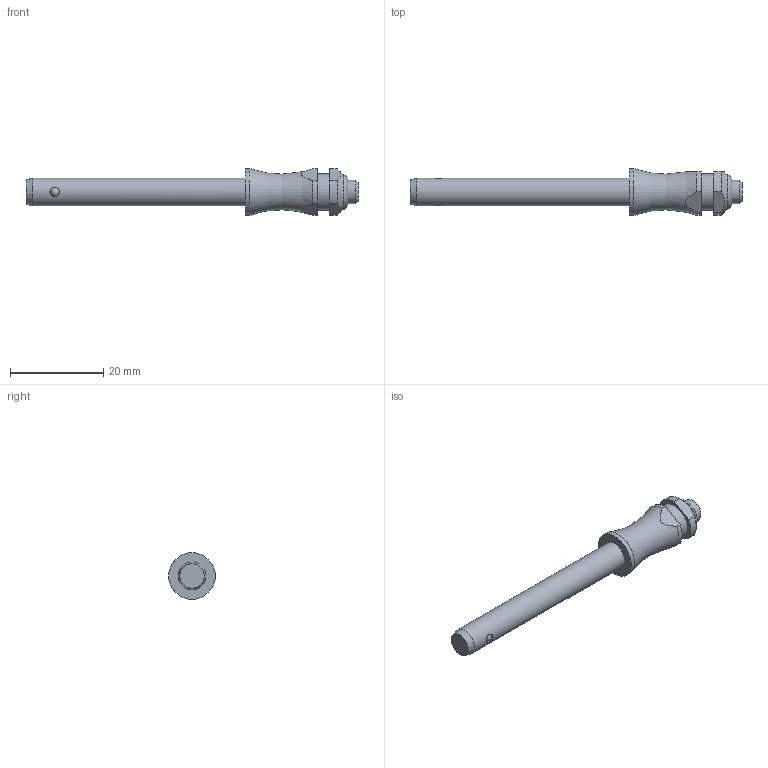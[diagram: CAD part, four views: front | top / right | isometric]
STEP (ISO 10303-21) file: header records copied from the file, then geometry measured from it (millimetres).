
FILE_DESCRIPTION( ( 'STEP AP203' ), '1' );
FILE_NAME( 'C:/Temp/Ganter_Step_05_03_2020/data/3_1/gn113_3/Stainless Steel-Ball lock pin GN 113.3-6-40 (activated).stp', '2020-03-12T08:18:18', ( 'License CC BY-ND 4.0' ), ( 'CADENAS' ), ' ', 'PARTsolutions', ' ' );
FILE_SCHEMA( ( 'CONFIG_CONTROL_DESIGN' ) );
Length unit declared in the file: millimetre
Products named in the file (1): _Stainless Steel-Ball lock pin GN 113.3-6-40 (activated)
Bounding box: 71.15 x 10 x 10 mm (x, y, z)
Volume: 2620.1 mm3; surface area: 1687.8 mm2
Topology: 1 solids, 1 shells, 31 faces, 73 edges, 46 vertices
Faces by surface type: plane 12, cylinder 12, cone 3, torus 2, sphere 2
Full cylindrical faces by diameter (mm): 2 x2, 5 x1, 6 x1, 7.9 x1, 10 x1
Entity records: 962 total; most frequent: CARTESIAN_POINT 298, DIRECTION 134, ORIENTED_EDGE 104, AXIS2_PLACEMENT_3D 58, EDGE_CURVE 52, EDGE_LOOP 48, VERTEX_POINT 40, FACE_OUTER_BOUND 39
